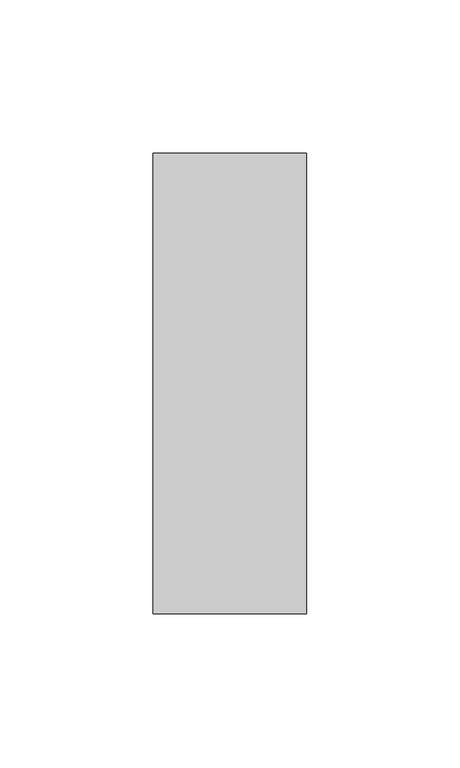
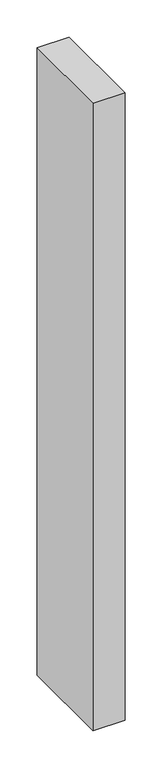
"""IFC4 building model written with IfcOpenShell, lengths in millimetres: member geometry, Прямоугольный импост : 50 x 150 мм."""

from ifc_helpers import new_model, si_unit, frame, origin, place, context, project, spatial, polyline, outline, extrude, source, transform, mapped, element, save


def member_cff60b31(model_context):
    return source(origin(), model_context, "Body", "SweptSolid", [
        extrude(outline(polyline([(25.0, 75.0), (25.0, -75.0), (-25.0, -75.0), (-25.0, 75.0), (25.0, 75.0)])), frame((0.0, 0.0, -1029.4093593), z_axis=(0.0, 0.0, 1.0), x_axis=(1.0, 0.0, 0.0)), (0.0, 0.0, 1.0), 1029.4093593),
    ])


if __name__ == "__main__":
    model = new_model("IFC4")
    model_context = context("Model", 3, world=origin())
    ifc_project = project(units=[si_unit("LENGTHUNIT", "METRE", prefix="MILLI")], contexts=[model_context])
    site = spatial("IfcSite", under=ifc_project)
    building = spatial("IfcBuilding", under=site)
    placement = place(None, origin())
    member_shape = member_cff60b31(model_context)
    element("IfcMember", 1, ObjectType="Прямоугольный импост : 50 x 150 мм", at=placement, inside=building, context=model_context, shape_type="MappedRepresentation", body=[
        mapped(member_shape, transform((0.0, 0.0, 0.0), x_axis=(1.0, 0.0, 0.0), y_axis=(0.0, 1.0, 0.0), z_axis=(0.0, 0.0, 1.0))),
    ])
    save(model, "model.ifc")
